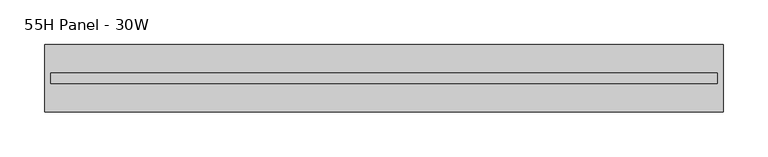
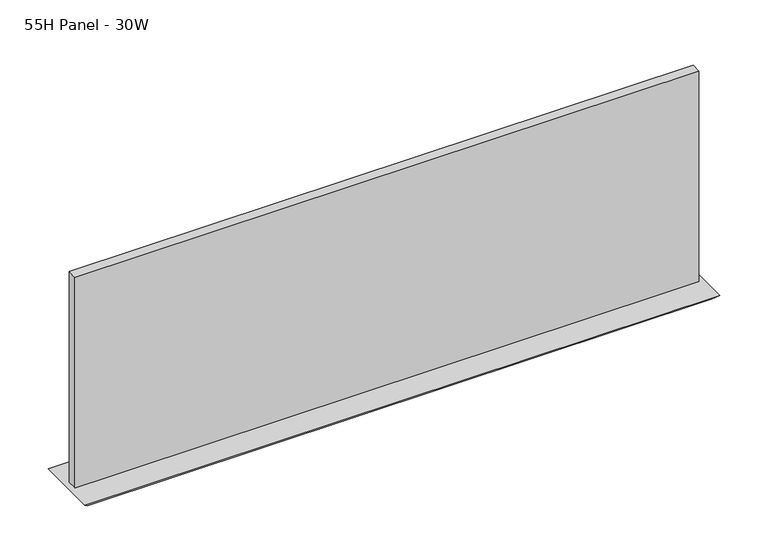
"""IFC4 building model written with IfcOpenShell, lengths in millimetres: furniture geometry, Steelcase - Montage - Tiles - 10H - Frameless Glass Stacker : 55H Panel - 30W."""

from ifc_helpers import new_model, si_unit, frame, origin, place, context, project, spatial, polyline, outline, extrude, faceted_brep, source, transform, mapped, element, save


def furniture_55h_panel_30w_42c54c80(model_context):
    return source(origin(), model_context, "Body", "SolidModel", [
        faceted_brep([(762.0, -38.1000015, 1398.5875), (0.0, -38.1000015, 1398.5875), (6.35, -31.7500015, 1392.2375), (755.65, -31.7500015, 1392.2375), (6.35, 31.7500015, 1392.2375), (755.65, 31.7500015, 1392.2375), (0.0, 38.1000015, 1398.5875), (762.0, 38.1000015, 1398.5875)], [[[0, 1, 2, 3]], [[3, 2, 4, 5]], [[6, 7, 5, 4]], [[1, 0, 7, 6]], [[2, 1, 6, 4]], [[0, 3, 5, 7]]]),
        extrude(outline(polyline([(755.2181828, -5.9944001), (6.7818001, -5.9944001), (6.7818001, 5.9944008), (755.2181828, 5.9944008), (755.2181828, -5.9944001)])), frame((0.0, 0.0, 1398.5875), z_axis=(0.0, 0.0, 1.0), x_axis=(1.0, 0.0, 0.0)), (0.0, 0.0, 1.0), 267.7160475),
    ])


if __name__ == "__main__":
    model = new_model("IFC4")
    model_context = context("Model", 3, world=origin())
    ifc_project = project(units=[si_unit("LENGTHUNIT", "METRE", prefix="MILLI")], contexts=[model_context])
    site = spatial("IfcSite", under=ifc_project)
    building = spatial("IfcBuilding", under=site)
    placement = place(None, origin())
    furniture_55h_panel_30w_shape = furniture_55h_panel_30w_42c54c80(model_context)
    element("IfcFurniture", 1, ObjectType="Steelcase - Montage - Tiles - 10H - Frameless Glass Stacker : 55H Panel - 30W", at=placement, inside=building, context=model_context, shape_type="MappedRepresentation", body=[
        mapped(furniture_55h_panel_30w_shape, transform((0.0, 0.0, 0.0), x_axis=(1.0, 0.0, 0.0), y_axis=(0.0, 1.0, 0.0), z_axis=(0.0, 0.0, 1.0))),
    ])
    save(model, "model.ifc")
